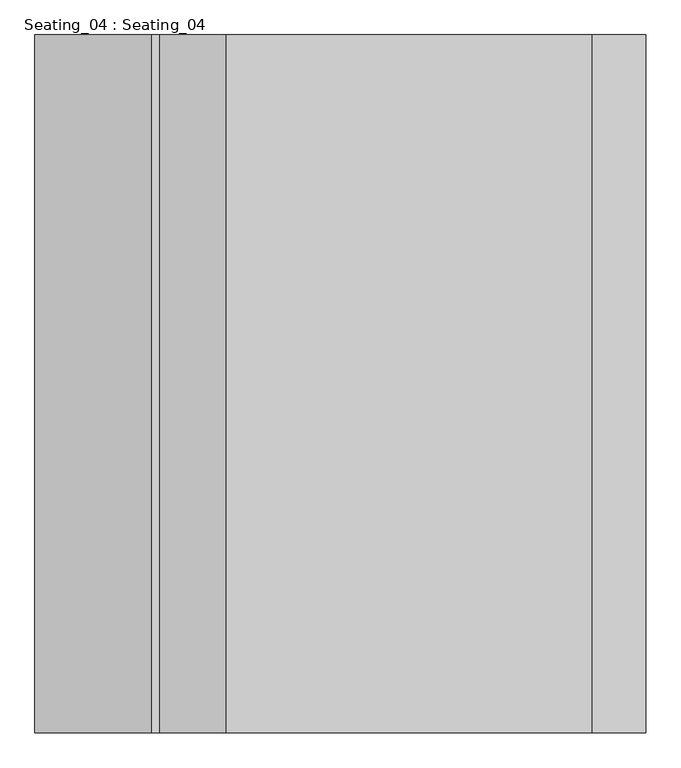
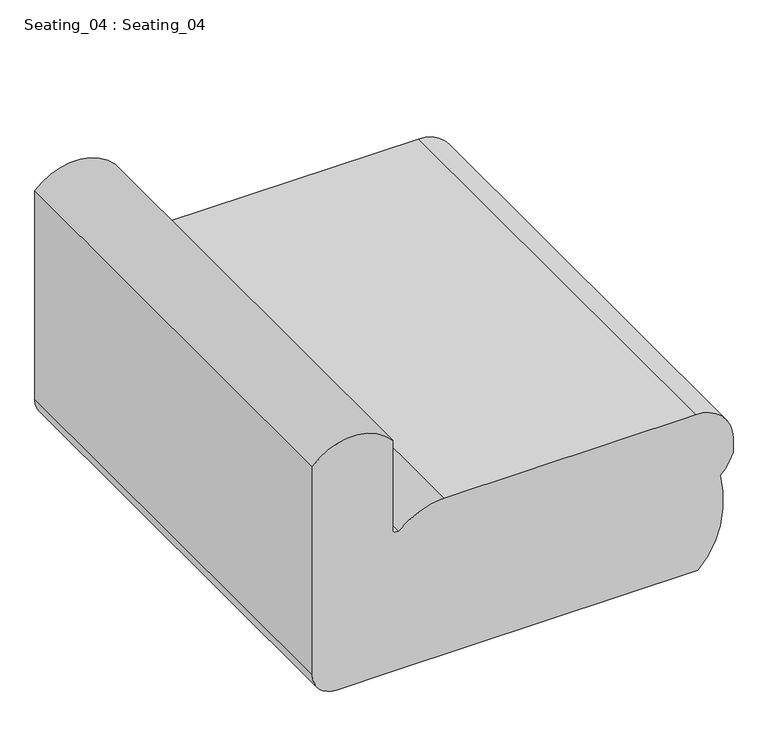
"""IFC4 building model written with IfcOpenShell, lengths in millimetres: furniture geometry, Seating_04 : Seating_04."""

import ifcopenshell
import ifcopenshell.guid

model = None  # the IFC model being written
_history = None  # IfcOwnerHistory: only IFC2X3 demands one
_inside = {}  # id of a spatial element -> (the spatial element, [elements in it])
_under = {}  # id of a project, library or spatial element -> (it, [spatial elements below it])
_declared = {}  # id of a project -> (the project, [libraries it declares])
_typed = {}  # id of a type object -> (the type object, [elements of that type])
_made_of = {}  # id of a material, layer set ... -> (it, [elements and type objects made of it])


def new_model(schema):
    """Start an empty IFC model of exactly this schema.

    Asked for "IFC4X3", IfcOpenShell would pick the latest addendum, in which some entities
    have other attributes; the version numbers below select the first issue.
    IFC2X3 requires an IfcOwnerHistory on every rooted entity: one is made here for all.
    """
    global model, _history
    if schema == "IFC4X3":
        model = ifcopenshell.file(schema_version=(4, 3, 0, 0))
    else:
        model = ifcopenshell.file(schema=schema)
    _inside.clear()
    _under.clear()
    _declared.clear()
    _typed.clear()
    _made_of.clear()
    _history = None
    if model.schema == "IFC2X3":
        org = make("IfcOrganization", Name="unknown")
        user = make(
            "IfcPersonAndOrganization",
            ThePerson=make("IfcPerson", FamilyName="unknown"),
            TheOrganization=org,
        )
        app = make(
            "IfcApplication",
            ApplicationDeveloper=org,
            Version="unknown",
            ApplicationFullName="unknown",
            ApplicationIdentifier="unknown",
        )
        _history = make(
            "IfcOwnerHistory",
            OwningUser=user,
            OwningApplication=app,
            ChangeAction="ADDED",
            CreationDate=0,
        )
    return model


def make(cls, **values):
    """One entity of the class cls with the attributes given. An attribute that is None is left unset."""
    return model.create_entity(
        cls, **{name: value for name, value in values.items() if value is not None}
    )


def rooted(cls, **values):
    """An entity with a GlobalId (a new one), such as an element, a storey or a relation."""
    return make(cls, GlobalId=ifcopenshell.guid.new(), OwnerHistory=_history, **values)


def si_unit(unit_type, name, prefix=None):
    """IfcSIUnit, for example si_unit("LENGTHUNIT", "METRE", prefix="MILLI")."""
    return make("IfcSIUnit", UnitType=unit_type, Prefix=prefix, Name=name)


def assignment(units):
    """IfcUnitAssignment: the units of a project."""
    return None if units is None else make("IfcUnitAssignment", Units=units)


def point(xyz):
    """IfcCartesianPoint."""
    return None if xyz is None else make("IfcCartesianPoint", Coordinates=xyz)


def direction(xyz):
    """IfcDirection."""
    return None if xyz is None else make("IfcDirection", DirectionRatios=xyz)


def frame(location, z_axis=None, x_axis=None):
    """IfcAxis2Placement3D, a coordinate frame: its origin and axes. An axis left out is left unset."""
    return make(
        "IfcAxis2Placement3D",
        Location=point(location),
        Axis=direction(z_axis),
        RefDirection=direction(x_axis),
    )


def frame_2d(location, x_axis=None):
    """IfcAxis2Placement2D, a coordinate frame in the plane: its origin and x axis."""
    return make(
        "IfcAxis2Placement2D", Location=point(location), RefDirection=direction(x_axis)
    )


def origin():
    """The frame at (0, 0, 0) with its axes left unset."""
    return frame((0.0, 0.0, 0.0))


def place(relative_to, where):
    """IfcLocalPlacement: puts the frame where relative to a parent placement (None: the world)."""
    return make(
        "IfcLocalPlacement", PlacementRelTo=relative_to, RelativePlacement=where
    )


def context(
    kind, dimensions, precision=None, world=None, true_north=None, identifier=None
):
    """IfcGeometricRepresentationContext, for example the 3D "Model" context."""
    return make(
        "IfcGeometricRepresentationContext",
        ContextIdentifier=identifier,
        ContextType=kind,
        CoordinateSpaceDimension=dimensions,
        Precision=precision,
        WorldCoordinateSystem=world,
        TrueNorth=true_north,
    )


def project(units=None, contexts=None):
    """IfcProject with its units and contexts."""
    return rooted(
        "IfcProject",
        Name="project",
        RepresentationContexts=contexts,
        UnitsInContext=assignment(units),
    )


def spatial(cls, under=None, at=None, **own):
    """A site, building, storey or space (cls), placed at a placement, below another one or the project."""
    s = rooted(cls, ObjectPlacement=at, **own)
    if under is not None:
        _under.setdefault(under.id(), (under, []))[1].append(s)
    return s


def polyline(points):
    """IfcPolyline through the points."""
    return make("IfcPolyline", Points=[point(p) for p in points])


def circle_curve(where, radius):
    """IfcCircle in the frame where."""
    return make("IfcCircle", Position=where, Radius=radius)


def trimmed(basis, trim1, trim2, sense, master):
    """IfcTrimmedCurve: the piece of a basis curve between two trims."""
    return make(
        "IfcTrimmedCurve",
        BasisCurve=basis,
        Trim1=trim1,
        Trim2=trim2,
        SenseAgreement=sense,
        MasterRepresentation=master,
    )


def segment(curve, same_sense, transition):
    """IfcCompositeCurveSegment."""
    return make(
        "IfcCompositeCurveSegment",
        Transition=transition,
        SameSense=same_sense,
        ParentCurve=curve,
    )


def composite_curve(segments, self_intersect=None):
    """IfcCompositeCurve: segments joined end to end."""
    return make("IfcCompositeCurve", Segments=segments, SelfIntersect=self_intersect)


def outline(outer, holes=None, kind="AREA"):
    """IfcArbitraryClosedProfileDef: a profile drawn as a closed curve; with holes, ...WithVoids."""
    if holes is None:
        return make("IfcArbitraryClosedProfileDef", ProfileType=kind, OuterCurve=outer)
    return make(
        "IfcArbitraryProfileDefWithVoids",
        ProfileType=kind,
        OuterCurve=outer,
        InnerCurves=holes,
    )


def extrude(swept, where, along, depth):
    """IfcExtrudedAreaSolid: the profile swept, set in the frame where, extruded along a direction by depth."""
    return make(
        "IfcExtrudedAreaSolid",
        SweptArea=swept,
        Position=where,
        ExtrudedDirection=direction(along),
        Depth=depth,
    )


def shape(context_of_items, identifier, shape_type, items):
    """IfcShapeRepresentation: the items that make up one representation, for example the "Body"."""
    return make(
        "IfcShapeRepresentation",
        ContextOfItems=context_of_items,
        RepresentationIdentifier=identifier,
        RepresentationType=shape_type,
        Items=items,
    )


def source(mapping_origin, context_of_items, identifier, shape_type, items):
    """IfcRepresentationMap: a shape defined once, which mapped items show again and again."""
    return make(
        "IfcRepresentationMap",
        MappingOrigin=mapping_origin,
        MappedRepresentation=shape(context_of_items, identifier, shape_type, items),
    )


def transform(
    local_origin,
    x_axis=None,
    y_axis=None,
    z_axis=None,
    scale=None,
    scale2=None,
    scale3=None,
    uniform=True,
):
    """IfcCartesianTransformationOperator3D, or its non-uniform kind. x_axis, y_axis, z_axis: its Axis1, 2, 3."""
    if uniform:
        return make(
            "IfcCartesianTransformationOperator3D",
            Axis1=direction(x_axis),
            Axis2=direction(y_axis),
            LocalOrigin=point(local_origin),
            Scale=scale,
            Axis3=direction(z_axis),
        )
    return make(
        "IfcCartesianTransformationOperator3DnonUniform",
        Axis1=direction(x_axis),
        Axis2=direction(y_axis),
        LocalOrigin=point(local_origin),
        Scale=scale,
        Axis3=direction(z_axis),
        Scale2=scale2,
        Scale3=scale3,
    )


def mapped(mapping_source, mapping_target):
    """IfcMappedItem: shows the shape of a source again, moved by a transform."""
    return make(
        "IfcMappedItem", MappingSource=mapping_source, MappingTarget=mapping_target
    )


def made_of(thing, what):
    """Note that an element or type object is made of a material, layer set ...; save() writes the relation."""
    if what is not None:
        _made_of.setdefault(what.id(), (what, []))[1].append(thing)
    return thing


def element(
    cls,
    number,
    at=None,
    inside=None,
    cuts=None,
    type_object=None,
    material=None,
    context=None,
    identifier="Body",
    shape_type=None,
    held_by="IfcProductDefinitionShape",
    body=None,
    shapes=None,
    **own,
):
    """One element of the class cls, such as IfcWall. Its Tag is "e" and its number.

    at: its placement. inside: the storey or other place that contains it. cuts: it is an
    opening in that element (IfcRelVoidsElement). A single representation is given by context,
    identifier, shape_type and body (its items); several are given by shapes. held_by: the class
    of the entity that holds the representations. save() writes the other relations.
    """
    e = rooted(cls, Tag="e%d" % number, ObjectPlacement=at, **own)
    if body is not None:
        shapes = [shape(context, identifier, shape_type, body)]
    if shapes is not None:
        e.Representation = make(held_by, Representations=shapes)
    if inside is not None:
        _inside.setdefault(inside.id(), (inside, []))[1].append(e)
    if cuts is not None:
        rooted(
            "IfcRelVoidsElement", RelatingBuildingElement=cuts, RelatedOpeningElement=e
        )
    if type_object is not None:
        _typed.setdefault(type_object.id(), (type_object, []))[1].append(e)
    return made_of(e, material)


def aggregate(whole, parts):
    """IfcRelAggregates: a whole, such as a stair, and the parts it consists of."""
    return rooted("IfcRelAggregates", RelatingObject=whole, RelatedObjects=parts)


def save(model, path):
    """Write the relations noted so far, then the file.

    IfcRelAggregates (storeys below a building ...), IfcRelContainedInSpatialStructure (elements
    in a storey), IfcRelDefinesByType, IfcRelAssociatesMaterial and IfcRelDeclares: one each for
    every whole, place, type object, material and project.
    """
    for whole, parts in _under.values():
        aggregate(whole, parts)
    for where, things in _inside.values():
        rooted(
            "IfcRelContainedInSpatialStructure",
            RelatedElements=things,
            RelatingStructure=where,
        )
    for kind, things in _typed.values():
        rooted("IfcRelDefinesByType", RelatedObjects=things, RelatingType=kind)
    for what, things in _made_of.values():
        rooted("IfcRelAssociatesMaterial", RelatedObjects=things, RelatingMaterial=what)
    for by, libraries in _declared.values():
        rooted("IfcRelDeclares", RelatingContext=by, RelatedDefinitions=libraries)
    model.write(path)


def seating_04_seating_04_01323e9f(model_context):
    return source(origin(), model_context, "Body", "SweptSolid", [
        extrude(outline(composite_curve([segment(polyline([(619.6276288, -533.0416735), (60.0, -533.0416735)]), True, "CONTINUOUS"), segment(trimmed(circle_curve(frame_2d((60.0, -473.0416735)), 60.0), [point((60.0, -533.0416735))], [point((0.0, -473.0416735))], False, "CARTESIAN"), True, "CONTINUOUS"), segment(polyline([(0.0, -473.0416735), (0.0, -329.8587297), (0.0, 443.0421909)]), True, "CONTINUOUS"), segment(trimmed(circle_curve(frame_2d((146.0415421, 304.5221842)), 201.2856783), [point((0.0, 443.0421909))], [point((99.1004683, 500.257873))], False, "CARTESIAN"), True, "CONTINUOUS"), segment(trimmed(circle_curve(frame_2d((166.6004683, 218.7952234)), 289.443385), [point((99.1004683, 500.257873))], [point((234.1004683, 500.257873))], False, "CARTESIAN"), True, "CONTINUOUS"), segment(trimmed(circle_curve(frame_2d((321.0133025, 421.8316348)), 117.0662871), [point((234.1004683, 500.257873))], [point((284.4504405, 533.0416735))], False, "CARTESIAN"), True, "CONTINUOUS"), segment(polyline([(284.4504405, 533.0416735), (323.7001743, 533.0416735)]), True, "CONTINUOUS"), segment(trimmed(circle_curve(frame_2d((323.7001743, 438.0416735)), 95.0), [point((323.7001743, 533.0416735))], [point((418.7001743, 438.0416735))], False, "CARTESIAN"), True, "CONTINUOUS"), segment(polyline([(418.7001743, 438.0416735), (418.7001743, -199.8587297)]), True, "CONTINUOUS"), segment(trimmed(circle_curve(frame_2d((218.2066029, -185.500826)), 201.0070187), [point((418.7001743, -199.8587297))], [point((371.050327, -316.0482027))], False, "CARTESIAN"), True, "CONTINUOUS"), segment(trimmed(circle_curve(frame_2d((385.1355158, -319.6751269)), 14.5446595), [point((371.050327, -316.0482027))], [point((374.7508466, -329.8587297))], True, "CARTESIAN"), True, "CONTINUOUS"), segment(polyline([(374.7508466, -329.8587297), (619.6276288, -329.8587297)]), True, "CONTINUOUS"), segment(trimmed(circle_curve(frame_2d((528.5726657, -431.4502016)), 136.4251937), [point((619.6276288, -329.8587297))], [point((619.6276288, -533.0416735))], False, "CARTESIAN"), True, "CONTINUOUS")], self_intersect=False)), frame((0.0, -608.964502, 0.0), z_axis=(0.0, 1.0, 0.0), x_axis=(0.0, 0.0, 1.0)), (0.0, 0.0, 1.0), 1217.9290039),
    ])


if __name__ == "__main__":
    model = new_model("IFC4")
    model_context = context("Model", 3, world=origin())
    ifc_project = project(units=[si_unit("LENGTHUNIT", "METRE", prefix="MILLI")], contexts=[model_context])
    site = spatial("IfcSite", under=ifc_project)
    building = spatial("IfcBuilding", under=site)
    placement = place(None, origin())
    seating_04_seating_04_shape = seating_04_seating_04_01323e9f(model_context)
    element("IfcFurniture", 1, ObjectType="Seating_04 : Seating_04", at=placement, inside=building, context=model_context, shape_type="MappedRepresentation", body=[
        mapped(seating_04_seating_04_shape, transform((0.0, 0.0, 0.0), x_axis=(1.0, 0.0, 0.0), y_axis=(0.0, 1.0, 0.0), z_axis=(0.0, 0.0, 1.0))),
    ])
    save(model, "model.ifc")
